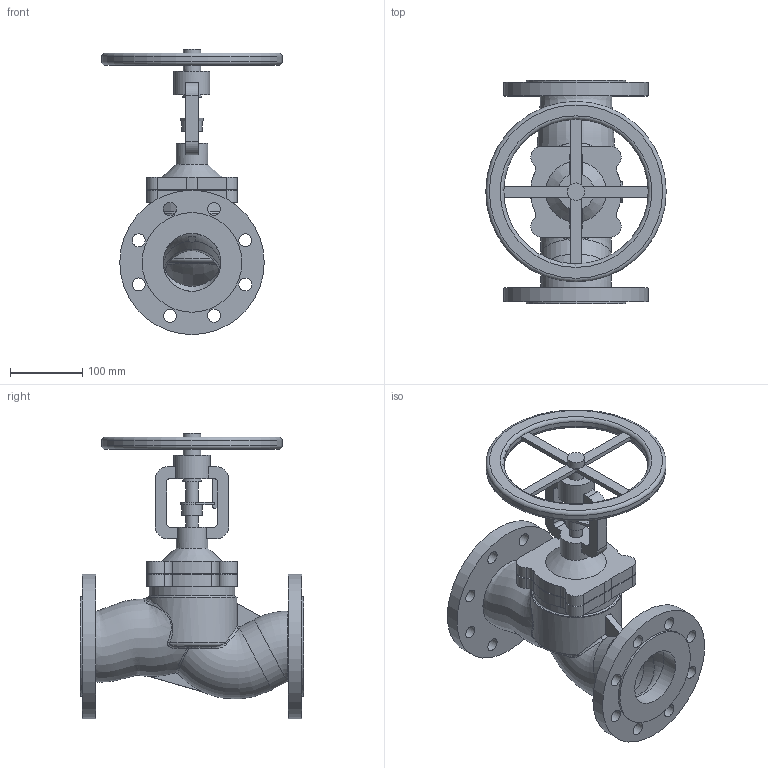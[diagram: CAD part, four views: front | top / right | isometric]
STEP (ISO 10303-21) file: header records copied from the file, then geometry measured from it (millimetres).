
FILE_DESCRIPTION(('STEP AP203'), '1');
FILE_NAME('孰囡囗 玎镱痦 BV1F DN80', '', ('UNSPECIFIED'), ('UNSPECIFIED'), 'ASCON STEP Converter 1.6', 'ASCON Math Kernel', '');
FILE_SCHEMA(('CONFIG_CONTROL_DESIGN'));
Length unit declared in the file: millimetre
Bounding box: 250 x 310 x 395 mm (x, y, z)
Volume: 3768695.8 mm3; surface area: 476323.6 mm2
Topology: 1 solids, 2 shells, 222 faces, 606 edges, 407 vertices
Faces by surface type: plane 101, cylinder 81, bspline 25, torus 14, cone 1
Full cylindrical faces by diameter (mm): 18 x18, 24 x1, 26 x1, 28 x1, 44 x1, 50 x1, 80 x3, 98 x1, 116 x1, 119 x1, 138 x2, 200 x3, 250 x1
Entity records: 47730 total; most frequent: CARTESIAN_POINT 40468, ORIENTED_EDGE 1112, DIRECTION 1066, EDGE_CURVE 556, AXIS2_PLACEMENT_3D 429, VERTEX_POINT 406, EDGE_LOOP 334, FACE_BOUND 278
